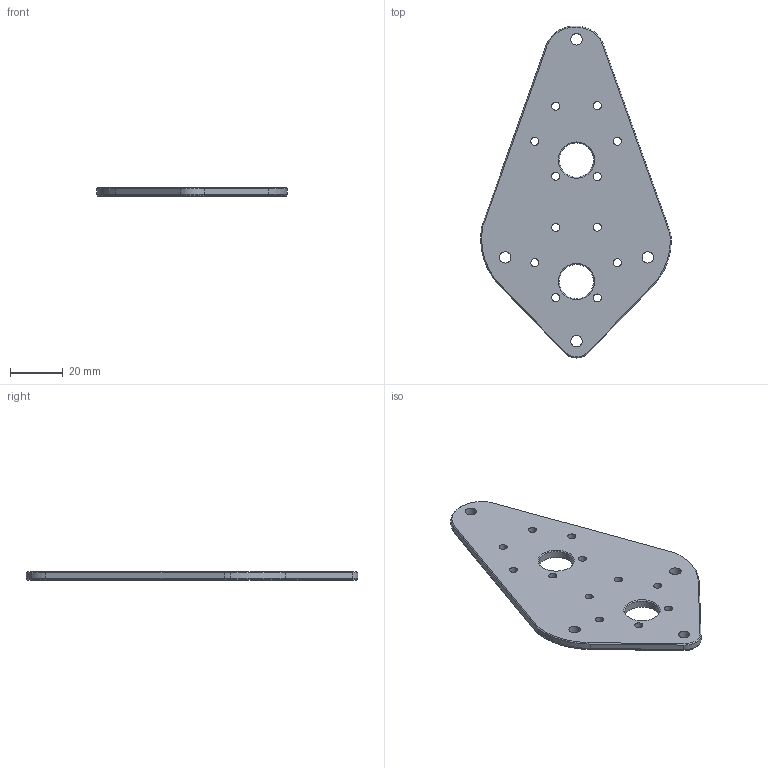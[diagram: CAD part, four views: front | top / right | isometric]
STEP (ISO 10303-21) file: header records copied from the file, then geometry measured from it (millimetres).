
FILE_DESCRIPTION(/* description */ ('STEP AP242 Edition 2','CAx-IF Rec.Pracs.---Representation and Presentation of Product Manufacturing Information (PMI)---4.0---2014-10-13','CAx-IF Rec.Pracs.---3D Tessellated Geometry---0.4---2014-09-14','2;1','CAx-IF Rec.Pracs.---User Defined Attributes---1.5---2016-08-15'),/* implementation_level */ '2;1');
FILE_NAME(/* name */ 'Main - Top Plate',/* time_stamp */ '2026-09-13T15:50:02Z',/* author */ (''),/* organization */ (''),/* preprocessor_version */ 'ST-DEVELOPER v20',/* originating_system */ 'ONSHAPE BY PTC INC, 1.220',/* authorisation */ ' ');
FILE_SCHEMA (('AP242_MANAGED_MODEL_BASED_3D_ENGINEERING_MIM_LF { 1 0 10303 442 3 1 4 }'));
Length unit declared in the file: metre
Products named in the file (1): Top Plate
Bounding box: 72.24 x 125.7 x 3.17 mm (x, y, z)
Volume: 16708.4 mm3; surface area: 12153.9 mm2
Topology: 1 solids, 1 shells, 70 faces, 166 edges, 98 vertices
Faces by surface type: cylinder 26, cone 26, plane 18
Full cylindrical faces by diameter (mm): 3.048 x12, 4.318 x4, 13 x2
Entity records: 2004 total; most frequent: DIRECTION 360, CARTESIAN_POINT 333, ORIENTED_EDGE 292, AXIS2_PLACEMENT_3D 149, EDGE_CURVE 146, EDGE_LOOP 126, FACE_BOUND 126, VERTEX_POINT 98
